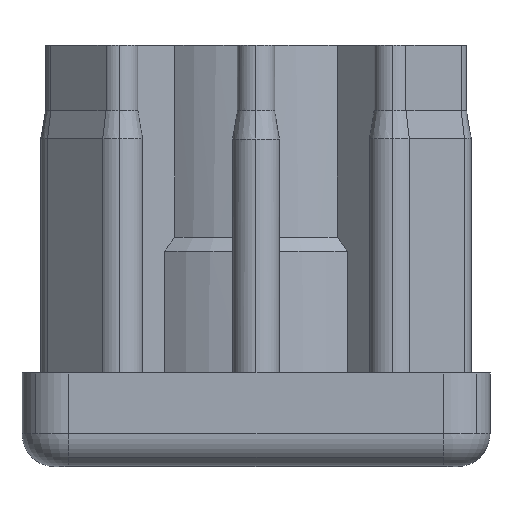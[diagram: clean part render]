
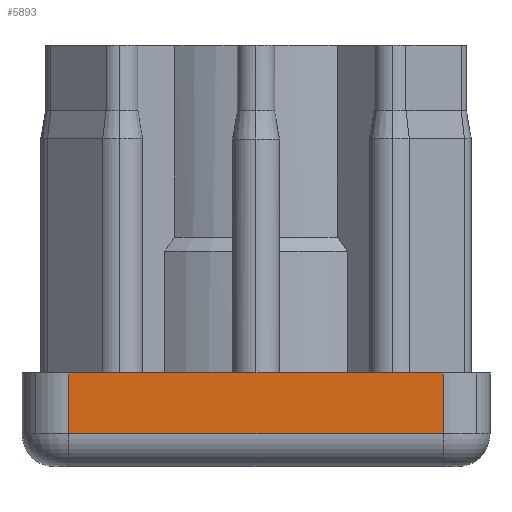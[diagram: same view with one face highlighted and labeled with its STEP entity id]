
A CAD part, left-side view. The second image highlights one B-rep face of the part: STEP entity #5893.
In plain terms, the highlighted planar face has unit normal (-1, 0, 0).
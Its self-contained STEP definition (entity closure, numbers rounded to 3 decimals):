
#57 = VECTOR ( 'NONE', #1829, 1000. ) ;
#77 = EDGE_LOOP ( 'NONE', ( #1587, #2547, #6533, #3318 ) ) ;
#182 = EDGE_CURVE ( 'NONE', #1909, #2737, #703, .T. ) ;
#554 = LINE ( 'NONE', #1658, #2073 ) ;
#703 = LINE ( 'NONE', #4981, #57 ) ;
#915 = AXIS2_PLACEMENT_3D ( 'NONE', #5705, #4602, #5093 ) ;
#1001 = EDGE_CURVE ( 'NONE', #1685, #2503, #1489, .T. ) ;
#1127 = DIRECTION ( 'NONE',  ( 0., 0., 1. ) ) ;
#1308 = DIRECTION ( 'NONE',  ( 0., 1., 0. ) ) ;
#1489 = LINE ( 'NONE', #5176, #4088 ) ;
#1587 = ORIENTED_EDGE ( 'NONE', *, *, #3567, .F. ) ;
#1658 = CARTESIAN_POINT ( 'NONE',  ( -25., 0., 9.5 ) ) ;
#1685 = VERTEX_POINT ( 'NONE', #6464 ) ;
#1829 = DIRECTION ( 'NONE',  ( 0., 0., -1. ) ) ;
#1894 = CARTESIAN_POINT ( 'NONE',  ( -25., -20., 3. ) ) ;
#1909 = VERTEX_POINT ( 'NONE', #3042 ) ;
#2073 = VECTOR ( 'NONE', #5268, 1000. ) ;
#2114 = PLANE ( 'NONE',  #915 ) ;
#2503 = VERTEX_POINT ( 'NONE', #5845 ) ;
#2547 = ORIENTED_EDGE ( 'NONE', *, *, #182, .F. ) ;
#2737 = VERTEX_POINT ( 'NONE', #1894 ) ;
#3042 = CARTESIAN_POINT ( 'NONE',  ( -25., -20., 9.5 ) ) ;
#3270 = CARTESIAN_POINT ( 'NONE',  ( -25., 0., 3. ) ) ;
#3318 = ORIENTED_EDGE ( 'NONE', *, *, #1001, .F. ) ;
#3567 = EDGE_CURVE ( 'NONE', #2737, #1685, #5668, .T. ) ;
#4088 = VECTOR ( 'NONE', #1127, 1000. ) ;
#4293 = VECTOR ( 'NONE', #1308, 1000. ) ;
#4602 = DIRECTION ( 'NONE',  ( 1., 0., 0. ) ) ;
#4729 = FACE_OUTER_BOUND ( 'NONE', #77, .T. ) ;
#4981 = CARTESIAN_POINT ( 'NONE',  ( -25., -20., -0.5 ) ) ;
#5093 = DIRECTION ( 'NONE',  ( 0., 1., 0. ) ) ;
#5176 = CARTESIAN_POINT ( 'NONE',  ( -25., 20., -0.5 ) ) ;
#5268 = DIRECTION ( 'NONE',  ( 0., 1., 0. ) ) ;
#5668 = LINE ( 'NONE', #3270, #4293 ) ;
#5705 = CARTESIAN_POINT ( 'NONE',  ( -25., -24.9, -0.5 ) ) ;
#5845 = CARTESIAN_POINT ( 'NONE',  ( -25., 20., 9.5 ) ) ;
#5893 = ADVANCED_FACE ( 'NONE', ( #4729 ), #2114, .F. ) ;
#6011 = EDGE_CURVE ( 'NONE', #1909, #2503, #554, .T. ) ;
#6464 = CARTESIAN_POINT ( 'NONE',  ( -25., 20., 3. ) ) ;
#6533 = ORIENTED_EDGE ( 'NONE', *, *, #6011, .T. ) ;
